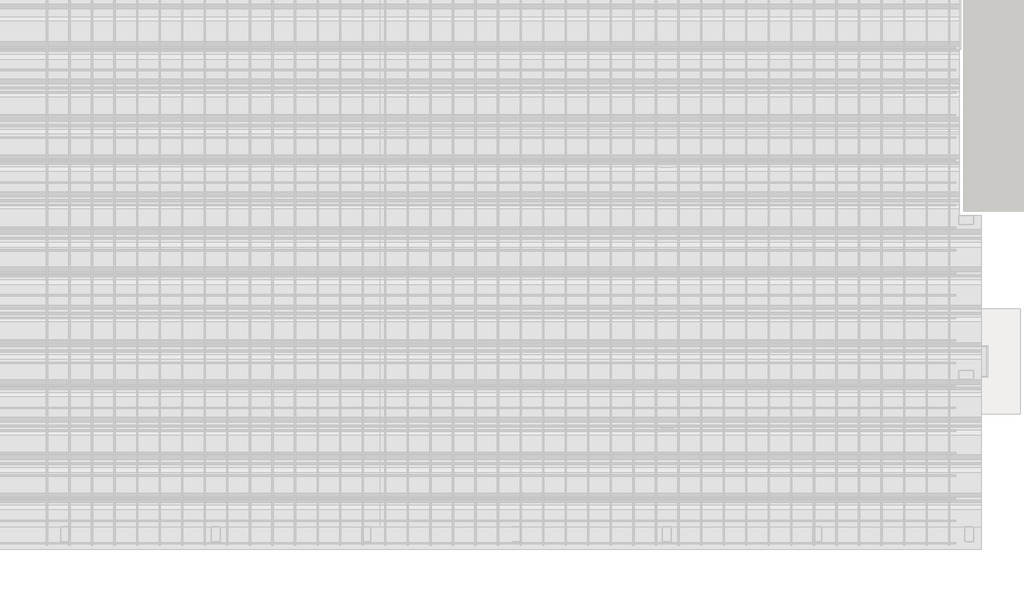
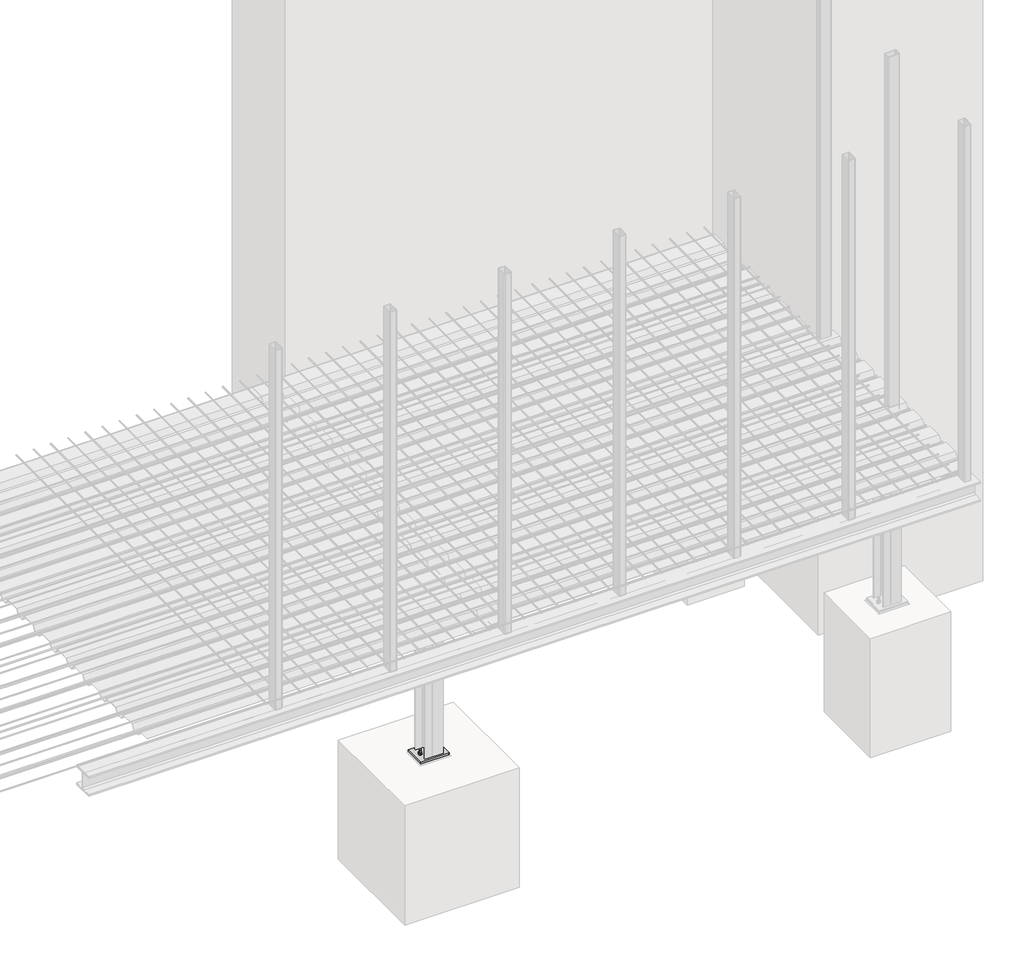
# One storey, part 15 of 36: 9 proxies.
"""IFC4 building model written with IfcOpenShell, lengths in millimetres."""

from ifc_helpers import new_model, si_unit, point, frame, frame_2d, origin, place, context, project, spatial, polyline, circle_curve, trimmed, segment, composite_curve, outline, extrude, element, save

model = new_model("IFC4")

# Units and contexts
model_context = context("Model", 3, world=origin())
ifc_project = project(units=[si_unit("LENGTHUNIT", "METRE", prefix="MILLI")], contexts=[model_context])

# Site, building, storey
site = spatial("IfcSite", under=ifc_project)
building = spatial("IfcBuilding", under=site)
storey = spatial("IfcBuildingStorey", under=building, Name="Základy", Elevation=-1200.0)

# Proxies
placement = place(None, origin())
element("IfcBuildingElementProxy", 1, Name="PLECH", ObjectType="PLECH", at=placement, inside=storey, context=model_context, shape_type="SweptSolid", body=[
    extrude(outline(composite_curve([segment(polyline([(-174.0, 11960.0), (-326.0, 11960.0), (-326.0, 12020.5)]), True, "CONTINUOUS"), segment(trimmed(circle_curve(frame_2d((-326.0, 12045.5)), 25.0), [point((-326.0, 12020.5))], [point((-301.0, 12045.5))], True, "CARTESIAN"), True, "CONTINUOUS"), segment(polyline([(-301.0, 12045.5), (-199.0, 12045.5)]), True, "CONTINUOUS"), segment(trimmed(circle_curve(frame_2d((-174.0, 12045.5)), 25.0), [point((-199.0, 12045.5))], [point((-174.0, 12020.5))], True, "CARTESIAN"), True, "CONTINUOUS"), segment(polyline([(-174.0, 12020.5), (-174.0, 11960.0)]), True, "CONTINUOUS")], self_intersect=False)), frame((0.0, 1256.0, 0.0), z_axis=(0.0, 1.0, 0.0), x_axis=(0.0, 0.0, 1.0)), (0.0, 0.0, 1.0), 8.0),
])
element("IfcBuildingElementProxy", 2, Name="PLECH", ObjectType="PLECH", at=placement, inside=storey, context=model_context, shape_type="SweptSolid", body=[
    extrude(outline(polyline([(12175.0, 1356.0), (12175.0, 1164.0), (11925.0, 1164.0), (11925.0, 1356.0), (12175.0, 1356.0)])), frame((0.0, 0.0, -1990.0), z_axis=(0.0, 0.0, 1.0), x_axis=(1.0, 0.0, 0.0)), (0.0, 0.0, 1.0), 15.0),
])
element("IfcBuildingElementProxy", 3, Name="PLECH", ObjectType="PLECH", at=placement, inside=storey, context=model_context, shape_type="SweptSolid", body=[
    extrude(outline(polyline([(12140.0, 1346.0), (12140.0, 1174.0), (11960.0, 1174.0), (11960.0, 1346.0), (12140.0, 1346.0)])), frame((0.0, 0.0, -350.0), z_axis=(0.0, 0.0, 1.0), x_axis=(1.0, 0.0, 0.0)), (0.0, 0.0, 1.0), 10.0),
])
element("IfcBuildingElementProxy", 4, Name="PLECH", ObjectType="PLECH", at=placement, inside=storey, context=model_context, shape_type="SweptSolid", body=[
    extrude(outline(composite_curve([segment(polyline([(190.0, -174.0), (190.0, -326.0), (124.25, -326.0)]), True, "CONTINUOUS"), segment(trimmed(circle_curve(frame_2d((104.25, -326.0)), 20.0), [point((124.25, -326.0))], [point((104.25, -306.0))], True, "CARTESIAN"), True, "CONTINUOUS"), segment(polyline([(104.25, -306.0), (104.25, -194.0)]), True, "CONTINUOUS"), segment(trimmed(circle_curve(frame_2d((104.25, -174.0)), 20.0), [point((104.25, -194.0))], [point((124.25, -174.0))], True, "CARTESIAN"), True, "CONTINUOUS"), segment(polyline([(124.25, -174.0), (190.0, -174.0)]), True, "CONTINUOUS")], self_intersect=False)), frame((14046.0, 0.0, 0.0), z_axis=(1.0, 0.0, 0.0), x_axis=(0.0, 1.0, 0.0)), (0.0, 0.0, 1.0), 8.0),
])
element("IfcBuildingElementProxy", 5, Name="PLECH", ObjectType="PLECH", at=placement, inside=storey, context=model_context, shape_type="SweptSolid", body=[
    extrude(outline(polyline([(13985.0, 200.0), (14115.0, 200.0), (14115.0, 190.0), (13985.0, 190.0), (13985.0, 200.0)])), frame((0.0, 0.0, -332.0), z_axis=(0.0, 0.0, 1.0), x_axis=(1.0, 0.0, 0.0)), (0.0, 0.0, 1.0), 164.0),
])
element("IfcBuildingElementProxy", 6, Name="PLECH", ObjectType="PLECH", at=placement, inside=storey, context=model_context, shape_type="SweptSolid", body=[
    extrude(outline(polyline([(12150.0, 1170.0), (12150.0, 1350.0), (12160.0, 1350.0), (12160.0, 1170.0), (12150.0, 1170.0)])), frame((0.0, 0.0, -326.0), z_axis=(0.0, 0.0, 1.0), x_axis=(1.0, 0.0, 0.0)), (0.0, 0.0, 1.0), 152.0),
])
element("IfcBuildingElementProxy", 7, Name="Bolt assembly", ObjectType="Bolt assembly", at=placement, inside=storey, context=model_context, shape_type="SweptSolid", body=[
    extrude(outline(composite_curve([segment(trimmed(circle_curve(frame_2d((1305.0, -210.0)), 8.5), [point((1305.0, -218.5))], [point((1305.0, -201.5))], False, "CARTESIAN"), True, "CONTINUOUS"), segment(trimmed(circle_curve(frame_2d((1305.0, -210.0)), 8.5), [point((1305.0, -201.5))], [point((1305.0, -218.5))], False, "CARTESIAN"), True, "CONTINUOUS")], self_intersect=False)), frame((12140.1, 0.0, 0.0), z_axis=(1.0, 0.0, 0.0), x_axis=(0.0, 1.0, 0.0)), (0.0, 0.0, 1.0), 10.0),
    extrude(outline(polyline([(1305.0, -223.8564065), (1293.0, -216.9282032), (1293.0, -203.0717968), (1305.0, -196.1435935), (1317.0, -203.0717968), (1317.0, -216.9282032), (1305.0, -223.8564065)])), frame((12127.0, 0.0, 0.0), z_axis=(1.0, 0.0, 0.0), x_axis=(0.0, 1.0, 0.0)), (0.0, 0.0, 1.0), 10.0),
    extrude(outline(composite_curve([segment(trimmed(circle_curve(frame_2d((1305.0, -210.0)), 8.0), [point((1305.0, -218.0))], [point((1305.0, -202.0))], False, "CARTESIAN"), True, "CONTINUOUS"), segment(trimmed(circle_curve(frame_2d((1305.0, -210.0)), 8.0), [point((1305.0, -202.0))], [point((1305.0, -218.0))], False, "CARTESIAN"), True, "CONTINUOUS")], self_intersect=False)), frame((12137.0, 0.0, 0.0), z_axis=(1.0, 0.0, 0.0), x_axis=(0.0, 1.0, 0.0)), (0.0, 0.0, 1.0), 45.0),
    extrude(outline(composite_curve([segment(trimmed(circle_curve(frame_2d((1305.0, -210.0)), 15.0), [point((1305.0, -225.0))], [point((1305.0, -195.0))], False, "CARTESIAN"), True, "CONTINUOUS"), segment(trimmed(circle_curve(frame_2d((1305.0, -210.0)), 15.0), [point((1305.0, -195.0))], [point((1305.0, -225.0))], False, "CARTESIAN"), True, "CONTINUOUS")], self_intersect=False)), frame((12137.0, 0.0, 0.0), z_axis=(1.0, 0.0, 0.0), x_axis=(0.0, 1.0, 0.0)), (0.0, 0.0, 1.0), 3.0),
    extrude(outline(composite_curve([segment(trimmed(circle_curve(frame_2d((1305.0, -210.0)), 15.0), [point((1305.0, -225.0))], [point((1305.0, -195.0))], False, "CARTESIAN"), True, "CONTINUOUS"), segment(trimmed(circle_curve(frame_2d((1305.0, -210.0)), 15.0), [point((1305.0, -195.0))], [point((1305.0, -225.0))], False, "CARTESIAN"), True, "CONTINUOUS")], self_intersect=False)), frame((12160.0, 0.0, 0.0), z_axis=(1.0, 0.0, 0.0), x_axis=(0.0, 1.0, 0.0)), (0.0, 0.0, 1.0), 3.0),
    extrude(outline(polyline([(1305.0, -225.4441197), (1291.625, -217.7220599), (1291.625, -202.2779401), (1305.0, -194.5558803), (1318.375, -202.2779401), (1318.375, -217.7220599), (1305.0, -225.4441197)])), frame((12163.0, 0.0, 0.0), z_axis=(1.0, 0.0, 0.0), x_axis=(0.0, 1.0, 0.0)), (0.0, 0.0, 1.0), 13.0),
    extrude(outline(composite_curve([segment(trimmed(circle_curve(frame_2d((1305.0, -210.0)), 8.5), [point((1305.0, -218.5))], [point((1305.0, -201.5))], False, "CARTESIAN"), True, "CONTINUOUS"), segment(trimmed(circle_curve(frame_2d((1305.0, -210.0)), 8.5), [point((1305.0, -201.5))], [point((1305.0, -218.5))], False, "CARTESIAN"), True, "CONTINUOUS")], self_intersect=False)), frame((12149.9, 0.0, 0.0), z_axis=(1.0, 0.0, 0.0), x_axis=(0.0, 1.0, 0.0)), (0.0, 0.0, 1.0), 10.1),
    extrude(outline(composite_curve([segment(trimmed(circle_curve(frame_2d((1305.0, -290.0)), 8.5), [point((1305.0, -298.5))], [point((1305.0, -281.5))], False, "CARTESIAN"), True, "CONTINUOUS"), segment(trimmed(circle_curve(frame_2d((1305.0, -290.0)), 8.5), [point((1305.0, -281.5))], [point((1305.0, -298.5))], False, "CARTESIAN"), True, "CONTINUOUS")], self_intersect=False)), frame((12140.1, 0.0, 0.0), z_axis=(1.0, 0.0, 0.0), x_axis=(0.0, 1.0, 0.0)), (0.0, 0.0, 1.0), 10.0),
    extrude(outline(polyline([(1305.0, -303.8564065), (1293.0, -296.9282032), (1293.0, -283.0717968), (1305.0, -276.1435935), (1317.0, -283.0717968), (1317.0, -296.9282032), (1305.0, -303.8564065)])), frame((12127.0, 0.0, 0.0), z_axis=(1.0, 0.0, 0.0), x_axis=(0.0, 1.0, 0.0)), (0.0, 0.0, 1.0), 10.0),
    extrude(outline(composite_curve([segment(trimmed(circle_curve(frame_2d((1305.0, -290.0)), 8.0), [point((1305.0, -298.0))], [point((1305.0, -282.0))], False, "CARTESIAN"), True, "CONTINUOUS"), segment(trimmed(circle_curve(frame_2d((1305.0, -290.0)), 8.0), [point((1305.0, -282.0))], [point((1305.0, -298.0))], False, "CARTESIAN"), True, "CONTINUOUS")], self_intersect=False)), frame((12137.0, 0.0, 0.0), z_axis=(1.0, 0.0, 0.0), x_axis=(0.0, 1.0, 0.0)), (0.0, 0.0, 1.0), 45.0),
    extrude(outline(composite_curve([segment(trimmed(circle_curve(frame_2d((1305.0, -290.0)), 15.0), [point((1305.0, -305.0))], [point((1305.0, -275.0))], False, "CARTESIAN"), True, "CONTINUOUS"), segment(trimmed(circle_curve(frame_2d((1305.0, -290.0)), 15.0), [point((1305.0, -275.0))], [point((1305.0, -305.0))], False, "CARTESIAN"), True, "CONTINUOUS")], self_intersect=False)), frame((12137.0, 0.0, 0.0), z_axis=(1.0, 0.0, 0.0), x_axis=(0.0, 1.0, 0.0)), (0.0, 0.0, 1.0), 3.0),
    extrude(outline(composite_curve([segment(trimmed(circle_curve(frame_2d((1305.0, -290.0)), 15.0), [point((1305.0, -305.0))], [point((1305.0, -275.0))], False, "CARTESIAN"), True, "CONTINUOUS"), segment(trimmed(circle_curve(frame_2d((1305.0, -290.0)), 15.0), [point((1305.0, -275.0))], [point((1305.0, -305.0))], False, "CARTESIAN"), True, "CONTINUOUS")], self_intersect=False)), frame((12160.0, 0.0, 0.0), z_axis=(1.0, 0.0, 0.0), x_axis=(0.0, 1.0, 0.0)), (0.0, 0.0, 1.0), 3.0),
    extrude(outline(polyline([(1305.0, -305.4441197), (1291.625, -297.7220599), (1291.625, -282.2779401), (1305.0, -274.5558803), (1318.375, -282.2779401), (1318.375, -297.7220599), (1305.0, -305.4441197)])), frame((12163.0, 0.0, 0.0), z_axis=(1.0, 0.0, 0.0), x_axis=(0.0, 1.0, 0.0)), (0.0, 0.0, 1.0), 13.0),
    extrude(outline(composite_curve([segment(trimmed(circle_curve(frame_2d((1305.0, -290.0)), 8.5), [point((1305.0, -298.5))], [point((1305.0, -281.5))], False, "CARTESIAN"), True, "CONTINUOUS"), segment(trimmed(circle_curve(frame_2d((1305.0, -290.0)), 8.5), [point((1305.0, -281.5))], [point((1305.0, -298.5))], False, "CARTESIAN"), True, "CONTINUOUS")], self_intersect=False)), frame((12149.9, 0.0, 0.0), z_axis=(1.0, 0.0, 0.0), x_axis=(0.0, 1.0, 0.0)), (0.0, 0.0, 1.0), 10.1),
    extrude(outline(composite_curve([segment(trimmed(circle_curve(frame_2d((1215.0, -210.0)), 8.5), [point((1215.0, -218.5))], [point((1215.0, -201.5))], False, "CARTESIAN"), True, "CONTINUOUS"), segment(trimmed(circle_curve(frame_2d((1215.0, -210.0)), 8.5), [point((1215.0, -201.5))], [point((1215.0, -218.5))], False, "CARTESIAN"), True, "CONTINUOUS")], self_intersect=False)), frame((12140.1, 0.0, 0.0), z_axis=(1.0, 0.0, 0.0), x_axis=(0.0, 1.0, 0.0)), (0.0, 0.0, 1.0), 10.0),
    extrude(outline(polyline([(1215.0, -223.8564065), (1203.0, -216.9282032), (1203.0, -203.0717968), (1215.0, -196.1435935), (1227.0, -203.0717968), (1227.0, -216.9282032), (1215.0, -223.8564065)])), frame((12127.0, 0.0, 0.0), z_axis=(1.0, 0.0, 0.0), x_axis=(0.0, 1.0, 0.0)), (0.0, 0.0, 1.0), 10.0),
    extrude(outline(composite_curve([segment(trimmed(circle_curve(frame_2d((1215.0, -210.0)), 8.0), [point((1215.0, -218.0))], [point((1215.0, -202.0))], False, "CARTESIAN"), True, "CONTINUOUS"), segment(trimmed(circle_curve(frame_2d((1215.0, -210.0)), 8.0), [point((1215.0, -202.0))], [point((1215.0, -218.0))], False, "CARTESIAN"), True, "CONTINUOUS")], self_intersect=False)), frame((12137.0, 0.0, 0.0), z_axis=(1.0, 0.0, 0.0), x_axis=(0.0, 1.0, 0.0)), (0.0, 0.0, 1.0), 45.0),
    extrude(outline(composite_curve([segment(trimmed(circle_curve(frame_2d((1215.0, -210.0)), 15.0), [point((1215.0, -225.0))], [point((1215.0, -195.0))], False, "CARTESIAN"), True, "CONTINUOUS"), segment(trimmed(circle_curve(frame_2d((1215.0, -210.0)), 15.0), [point((1215.0, -195.0))], [point((1215.0, -225.0))], False, "CARTESIAN"), True, "CONTINUOUS")], self_intersect=False)), frame((12137.0, 0.0, 0.0), z_axis=(1.0, 0.0, 0.0), x_axis=(0.0, 1.0, 0.0)), (0.0, 0.0, 1.0), 3.0),
    extrude(outline(composite_curve([segment(trimmed(circle_curve(frame_2d((1215.0, -210.0)), 15.0), [point((1215.0, -225.0))], [point((1215.0, -195.0))], False, "CARTESIAN"), True, "CONTINUOUS"), segment(trimmed(circle_curve(frame_2d((1215.0, -210.0)), 15.0), [point((1215.0, -195.0))], [point((1215.0, -225.0))], False, "CARTESIAN"), True, "CONTINUOUS")], self_intersect=False)), frame((12160.0, 0.0, 0.0), z_axis=(1.0, 0.0, 0.0), x_axis=(0.0, 1.0, 0.0)), (0.0, 0.0, 1.0), 3.0),
    extrude(outline(polyline([(1215.0, -225.4441197), (1201.625, -217.7220599), (1201.625, -202.2779401), (1215.0, -194.5558803), (1228.375, -202.2779401), (1228.375, -217.7220599), (1215.0, -225.4441197)])), frame((12163.0, 0.0, 0.0), z_axis=(1.0, 0.0, 0.0), x_axis=(0.0, 1.0, 0.0)), (0.0, 0.0, 1.0), 13.0),
    extrude(outline(composite_curve([segment(trimmed(circle_curve(frame_2d((1215.0, -210.0)), 8.5), [point((1215.0, -218.5))], [point((1215.0, -201.5))], False, "CARTESIAN"), True, "CONTINUOUS"), segment(trimmed(circle_curve(frame_2d((1215.0, -210.0)), 8.5), [point((1215.0, -201.5))], [point((1215.0, -218.5))], False, "CARTESIAN"), True, "CONTINUOUS")], self_intersect=False)), frame((12149.9, 0.0, 0.0), z_axis=(1.0, 0.0, 0.0), x_axis=(0.0, 1.0, 0.0)), (0.0, 0.0, 1.0), 10.1),
    extrude(outline(composite_curve([segment(trimmed(circle_curve(frame_2d((1215.0, -290.0)), 8.5), [point((1215.0, -298.5))], [point((1215.0, -281.5))], False, "CARTESIAN"), True, "CONTINUOUS"), segment(trimmed(circle_curve(frame_2d((1215.0, -290.0)), 8.5), [point((1215.0, -281.5))], [point((1215.0, -298.5))], False, "CARTESIAN"), True, "CONTINUOUS")], self_intersect=False)), frame((12140.1, 0.0, 0.0), z_axis=(1.0, 0.0, 0.0), x_axis=(0.0, 1.0, 0.0)), (0.0, 0.0, 1.0), 10.0),
    extrude(outline(polyline([(1215.0, -303.8564065), (1203.0, -296.9282032), (1203.0, -283.0717968), (1215.0, -276.1435935), (1227.0, -283.0717968), (1227.0, -296.9282032), (1215.0, -303.8564065)])), frame((12127.0, 0.0, 0.0), z_axis=(1.0, 0.0, 0.0), x_axis=(0.0, 1.0, 0.0)), (0.0, 0.0, 1.0), 10.0),
    extrude(outline(composite_curve([segment(trimmed(circle_curve(frame_2d((1215.0, -290.0)), 8.0), [point((1215.0, -298.0))], [point((1215.0, -282.0))], False, "CARTESIAN"), True, "CONTINUOUS"), segment(trimmed(circle_curve(frame_2d((1215.0, -290.0)), 8.0), [point((1215.0, -282.0))], [point((1215.0, -298.0))], False, "CARTESIAN"), True, "CONTINUOUS")], self_intersect=False)), frame((12137.0, 0.0, 0.0), z_axis=(1.0, 0.0, 0.0), x_axis=(0.0, 1.0, 0.0)), (0.0, 0.0, 1.0), 45.0),
    extrude(outline(composite_curve([segment(trimmed(circle_curve(frame_2d((1215.0, -290.0)), 15.0), [point((1215.0, -305.0))], [point((1215.0, -275.0))], False, "CARTESIAN"), True, "CONTINUOUS"), segment(trimmed(circle_curve(frame_2d((1215.0, -290.0)), 15.0), [point((1215.0, -275.0))], [point((1215.0, -305.0))], False, "CARTESIAN"), True, "CONTINUOUS")], self_intersect=False)), frame((12137.0, 0.0, 0.0), z_axis=(1.0, 0.0, 0.0), x_axis=(0.0, 1.0, 0.0)), (0.0, 0.0, 1.0), 3.0),
    extrude(outline(composite_curve([segment(trimmed(circle_curve(frame_2d((1215.0, -290.0)), 15.0), [point((1215.0, -305.0))], [point((1215.0, -275.0))], False, "CARTESIAN"), True, "CONTINUOUS"), segment(trimmed(circle_curve(frame_2d((1215.0, -290.0)), 15.0), [point((1215.0, -275.0))], [point((1215.0, -305.0))], False, "CARTESIAN"), True, "CONTINUOUS")], self_intersect=False)), frame((12160.0, 0.0, 0.0), z_axis=(1.0, 0.0, 0.0), x_axis=(0.0, 1.0, 0.0)), (0.0, 0.0, 1.0), 3.0),
    extrude(outline(polyline([(1215.0, -305.4441197), (1201.625, -297.7220599), (1201.625, -282.2779401), (1215.0, -274.5558803), (1228.375, -282.2779401), (1228.375, -297.7220599), (1215.0, -305.4441197)])), frame((12163.0, 0.0, 0.0), z_axis=(1.0, 0.0, 0.0), x_axis=(0.0, 1.0, 0.0)), (0.0, 0.0, 1.0), 13.0),
    extrude(outline(composite_curve([segment(trimmed(circle_curve(frame_2d((1215.0, -290.0)), 8.5), [point((1215.0, -298.5))], [point((1215.0, -281.5))], False, "CARTESIAN"), True, "CONTINUOUS"), segment(trimmed(circle_curve(frame_2d((1215.0, -290.0)), 8.5), [point((1215.0, -281.5))], [point((1215.0, -298.5))], False, "CARTESIAN"), True, "CONTINUOUS")], self_intersect=False)), frame((12149.9, 0.0, 0.0), z_axis=(1.0, 0.0, 0.0), x_axis=(0.0, 1.0, 0.0)), (0.0, 0.0, 1.0), 10.1),
])
element("IfcBuildingElementProxy", 8, Name="Bolt assembly", ObjectType="Bolt assembly", at=placement, inside=storey, context=model_context, shape_type="SweptSolid", body=[
    extrude(outline(polyline([(11982.7364934, 1260.0), (11978.8682467, 1253.3000002), (11971.1317533, 1253.3000002), (11967.2635066, 1260.0), (11971.1317533, 1266.6999998), (11978.8682467, 1266.6999998), (11982.7364934, 1260.0)])), frame((0.0, 0.0, -2122.0), z_axis=(0.0, 0.0, 1.0), x_axis=(1.0, 0.0, 0.0)), (0.0, 0.0, 1.0), 132.0),
    extrude(outline(composite_curve([segment(trimmed(circle_curve(frame_2d((11975.0, 1260.0)), 8.0), [point((11983.0, 1260.0))], [point((11967.0, 1260.0))], False, "CARTESIAN"), True, "CONTINUOUS"), segment(trimmed(circle_curve(frame_2d((11975.0, 1260.0)), 8.0), [point((11967.0, 1260.0))], [point((11983.0, 1260.0))], False, "CARTESIAN"), True, "CONTINUOUS")], self_intersect=False)), frame((0.0, 0.0, -1990.0), z_axis=(0.0, 0.0, 1.0), x_axis=(1.0, 0.0, 0.0)), (0.0, 0.0, 1.0), 58.0),
    extrude(outline(composite_curve([segment(trimmed(circle_curve(frame_2d((11975.0, 1260.0)), 15.0), [point((11990.0, 1260.0))], [point((11960.0, 1260.0))], False, "CARTESIAN"), True, "CONTINUOUS"), segment(trimmed(circle_curve(frame_2d((11975.0, 1260.0)), 15.0), [point((11960.0, 1260.0))], [point((11990.0, 1260.0))], False, "CARTESIAN"), True, "CONTINUOUS")], self_intersect=False)), frame((0.0, 0.0, -1975.0), z_axis=(0.0, 0.0, 1.0), x_axis=(1.0, 0.0, 0.0)), (0.0, 0.0, 1.0), 3.0),
    extrude(outline(polyline([(11990.4441197, 1260.0), (11982.7220599, 1246.625), (11967.2779401, 1246.625), (11959.5558803, 1260.0), (11967.2779401, 1273.375), (11982.7220599, 1273.375), (11990.4441197, 1260.0)])), frame((0.0, 0.0, -1972.0), z_axis=(0.0, 0.0, 1.0), x_axis=(1.0, 0.0, 0.0)), (0.0, 0.0, 1.0), 13.0),
    extrude(outline(composite_curve([segment(trimmed(circle_curve(frame_2d((11975.0, 1260.0)), 9.0), [point((11984.0, 1260.0))], [point((11966.0, 1260.0))], False, "CARTESIAN"), True, "CONTINUOUS"), segment(trimmed(circle_curve(frame_2d((11975.0, 1260.0)), 9.0), [point((11966.0, 1260.0))], [point((11984.0, 1260.0))], False, "CARTESIAN"), True, "CONTINUOUS")], self_intersect=False)), frame((0.0, 0.0, -1990.0), z_axis=(0.0, 0.0, 1.0), x_axis=(1.0, 0.0, 0.0)), (0.0, 0.0, 1.0), 15.1),
    extrude(outline(polyline([(12132.7364934, 1260.0), (12128.8682467, 1253.3000002), (12121.1317533, 1253.3000002), (12117.2635066, 1260.0), (12121.1317533, 1266.6999998), (12128.8682467, 1266.6999998), (12132.7364934, 1260.0)])), frame((0.0, 0.0, -2122.0), z_axis=(0.0, 0.0, 1.0), x_axis=(1.0, 0.0, 0.0)), (0.0, 0.0, 1.0), 132.0),
    extrude(outline(composite_curve([segment(trimmed(circle_curve(frame_2d((12125.0, 1260.0)), 8.0), [point((12133.0, 1260.0))], [point((12117.0, 1260.0))], False, "CARTESIAN"), True, "CONTINUOUS"), segment(trimmed(circle_curve(frame_2d((12125.0, 1260.0)), 8.0), [point((12117.0, 1260.0))], [point((12133.0, 1260.0))], False, "CARTESIAN"), True, "CONTINUOUS")], self_intersect=False)), frame((0.0, 0.0, -1990.0), z_axis=(0.0, 0.0, 1.0), x_axis=(1.0, 0.0, 0.0)), (0.0, 0.0, 1.0), 58.0),
    extrude(outline(composite_curve([segment(trimmed(circle_curve(frame_2d((12125.0, 1260.0)), 15.0), [point((12140.0, 1260.0))], [point((12110.0, 1260.0))], False, "CARTESIAN"), True, "CONTINUOUS"), segment(trimmed(circle_curve(frame_2d((12125.0, 1260.0)), 15.0), [point((12110.0, 1260.0))], [point((12140.0, 1260.0))], False, "CARTESIAN"), True, "CONTINUOUS")], self_intersect=False)), frame((0.0, 0.0, -1975.0), z_axis=(0.0, 0.0, 1.0), x_axis=(1.0, 0.0, 0.0)), (0.0, 0.0, 1.0), 3.0),
    extrude(outline(polyline([(12140.4441197, 1260.0), (12132.7220599, 1246.625), (12117.2779401, 1246.625), (12109.5558803, 1260.0), (12117.2779401, 1273.375), (12132.7220599, 1273.375), (12140.4441197, 1260.0)])), frame((0.0, 0.0, -1972.0), z_axis=(0.0, 0.0, 1.0), x_axis=(1.0, 0.0, 0.0)), (0.0, 0.0, 1.0), 13.0),
    extrude(outline(composite_curve([segment(trimmed(circle_curve(frame_2d((12125.0, 1260.0)), 9.0), [point((12134.0, 1260.0))], [point((12116.0, 1260.0))], False, "CARTESIAN"), True, "CONTINUOUS"), segment(trimmed(circle_curve(frame_2d((12125.0, 1260.0)), 9.0), [point((12116.0, 1260.0))], [point((12134.0, 1260.0))], False, "CARTESIAN"), True, "CONTINUOUS")], self_intersect=False)), frame((0.0, 0.0, -1990.0), z_axis=(0.0, 0.0, 1.0), x_axis=(1.0, 0.0, 0.0)), (0.0, 0.0, 1.0), 15.1),
])
element("IfcBuildingElementProxy", 9, Name="Bolt assembly", ObjectType="Bolt assembly", at=placement, inside=storey, context=model_context, shape_type="SweptSolid", body=[
    extrude(outline(composite_curve([segment(trimmed(circle_curve(frame_2d((12000.0, 1220.0)), 6.5), [point((12006.5, 1220.0))], [point((11993.5, 1220.0))], False, "CARTESIAN"), True, "CONTINUOUS"), segment(trimmed(circle_curve(frame_2d((12000.0, 1220.0)), 6.5), [point((11993.5, 1220.0))], [point((12006.5, 1220.0))], False, "CARTESIAN"), True, "CONTINUOUS")], self_intersect=False)), frame((0.0, 0.0, -350.0), z_axis=(0.0, 0.0, 1.0), x_axis=(1.0, 0.0, 0.0)), (0.0, 0.0, 1.0), 10.1),
    extrude(outline(polyline([(12010.3923048, 1220.0), (12005.1961524, 1211.0), (11994.8038476, 1211.0), (11989.6076952, 1220.0), (11994.8038476, 1229.0), (12005.1961524, 1229.0), (12010.3923048, 1220.0)])), frame((0.0, 0.0, -323.5), z_axis=(0.0, 0.0, 1.0), x_axis=(1.0, 0.0, 0.0)), (0.0, 0.0, 1.0), 7.5),
    extrude(outline(composite_curve([segment(trimmed(circle_curve(frame_2d((12000.0, 1220.0)), 6.0), [point((12006.0, 1220.0))], [point((11994.0, 1220.0))], False, "CARTESIAN"), True, "CONTINUOUS"), segment(trimmed(circle_curve(frame_2d((12000.0, 1220.0)), 6.0), [point((11994.0, 1220.0))], [point((12006.0, 1220.0))], False, "CARTESIAN"), True, "CONTINUOUS")], self_intersect=False)), frame((0.0, 0.0, -368.5), z_axis=(0.0, 0.0, 1.0), x_axis=(1.0, 0.0, 0.0)), (0.0, 0.0, 1.0), 45.0),
    extrude(outline(composite_curve([segment(trimmed(circle_curve(frame_2d((12000.0, 1220.0)), 12.0), [point((12012.0, 1220.0))], [point((11988.0, 1220.0))], False, "CARTESIAN"), True, "CONTINUOUS"), segment(trimmed(circle_curve(frame_2d((12000.0, 1220.0)), 12.0), [point((11988.0, 1220.0))], [point((12012.0, 1220.0))], False, "CARTESIAN"), True, "CONTINUOUS")], self_intersect=False)), frame((0.0, 0.0, -326.0), z_axis=(0.0, 0.0, 1.0), x_axis=(1.0, 0.0, 0.0)), (0.0, 0.0, 1.0), 2.5),
    extrude(outline(composite_curve([segment(trimmed(circle_curve(frame_2d((12000.0, 1220.0)), 12.0), [point((12012.0, 1220.0))], [point((11988.0, 1220.0))], False, "CARTESIAN"), True, "CONTINUOUS"), segment(trimmed(circle_curve(frame_2d((12000.0, 1220.0)), 12.0), [point((11988.0, 1220.0))], [point((12012.0, 1220.0))], False, "CARTESIAN"), True, "CONTINUOUS")], self_intersect=False)), frame((0.0, 0.0, -352.5), z_axis=(0.0, 0.0, 1.0), x_axis=(1.0, 0.0, 0.0)), (0.0, 0.0, 1.0), 2.5),
    extrude(outline(polyline([(12010.9696551, 1220.0), (12005.4848276, 1210.5), (11994.5151724, 1210.5), (11989.0303449, 1220.0), (11994.5151724, 1229.5), (12005.4848276, 1229.5), (12010.9696551, 1220.0)])), frame((0.0, 0.0, -362.5), z_axis=(0.0, 0.0, 1.0), x_axis=(1.0, 0.0, 0.0)), (0.0, 0.0, 1.0), 10.0),
    extrude(outline(composite_curve([segment(trimmed(circle_curve(frame_2d((12000.0, 1220.0)), 6.5), [point((12006.5, 1220.0))], [point((11993.5, 1220.0))], False, "CARTESIAN"), True, "CONTINUOUS"), segment(trimmed(circle_curve(frame_2d((12000.0, 1220.0)), 6.5), [point((11993.5, 1220.0))], [point((12006.5, 1220.0))], False, "CARTESIAN"), True, "CONTINUOUS")], self_intersect=False)), frame((0.0, 0.0, -340.1), z_axis=(0.0, 0.0, 1.0), x_axis=(1.0, 0.0, 0.0)), (0.0, 0.0, 1.0), 14.0),
    extrude(outline(composite_curve([segment(trimmed(circle_curve(frame_2d((12100.0, 1220.0)), 6.5), [point((12106.5, 1220.0))], [point((12093.5, 1220.0))], False, "CARTESIAN"), True, "CONTINUOUS"), segment(trimmed(circle_curve(frame_2d((12100.0, 1220.0)), 6.5), [point((12093.5, 1220.0))], [point((12106.5, 1220.0))], False, "CARTESIAN"), True, "CONTINUOUS")], self_intersect=False)), frame((0.0, 0.0, -350.0), z_axis=(0.0, 0.0, 1.0), x_axis=(1.0, 0.0, 0.0)), (0.0, 0.0, 1.0), 10.1),
    extrude(outline(polyline([(12110.3923048, 1220.0), (12105.1961524, 1211.0), (12094.8038476, 1211.0), (12089.6076952, 1220.0), (12094.8038476, 1229.0), (12105.1961524, 1229.0), (12110.3923048, 1220.0)])), frame((0.0, 0.0, -323.5), z_axis=(0.0, 0.0, 1.0), x_axis=(1.0, 0.0, 0.0)), (0.0, 0.0, 1.0), 7.5),
    extrude(outline(composite_curve([segment(trimmed(circle_curve(frame_2d((12100.0, 1220.0)), 6.0), [point((12106.0, 1220.0))], [point((12094.0, 1220.0))], False, "CARTESIAN"), True, "CONTINUOUS"), segment(trimmed(circle_curve(frame_2d((12100.0, 1220.0)), 6.0), [point((12094.0, 1220.0))], [point((12106.0, 1220.0))], False, "CARTESIAN"), True, "CONTINUOUS")], self_intersect=False)), frame((0.0, 0.0, -368.5), z_axis=(0.0, 0.0, 1.0), x_axis=(1.0, 0.0, 0.0)), (0.0, 0.0, 1.0), 45.0),
    extrude(outline(composite_curve([segment(trimmed(circle_curve(frame_2d((12100.0, 1220.0)), 12.0), [point((12112.0, 1220.0))], [point((12088.0, 1220.0))], False, "CARTESIAN"), True, "CONTINUOUS"), segment(trimmed(circle_curve(frame_2d((12100.0, 1220.0)), 12.0), [point((12088.0, 1220.0))], [point((12112.0, 1220.0))], False, "CARTESIAN"), True, "CONTINUOUS")], self_intersect=False)), frame((0.0, 0.0, -326.0), z_axis=(0.0, 0.0, 1.0), x_axis=(1.0, 0.0, 0.0)), (0.0, 0.0, 1.0), 2.5),
    extrude(outline(composite_curve([segment(trimmed(circle_curve(frame_2d((12100.0, 1220.0)), 12.0), [point((12112.0, 1220.0))], [point((12088.0, 1220.0))], False, "CARTESIAN"), True, "CONTINUOUS"), segment(trimmed(circle_curve(frame_2d((12100.0, 1220.0)), 12.0), [point((12088.0, 1220.0))], [point((12112.0, 1220.0))], False, "CARTESIAN"), True, "CONTINUOUS")], self_intersect=False)), frame((0.0, 0.0, -352.5), z_axis=(0.0, 0.0, 1.0), x_axis=(1.0, 0.0, 0.0)), (0.0, 0.0, 1.0), 2.5),
    extrude(outline(polyline([(12110.9696551, 1220.0), (12105.4848276, 1210.5), (12094.5151724, 1210.5), (12089.0303449, 1220.0), (12094.5151724, 1229.5), (12105.4848276, 1229.5), (12110.9696551, 1220.0)])), frame((0.0, 0.0, -362.5), z_axis=(0.0, 0.0, 1.0), x_axis=(1.0, 0.0, 0.0)), (0.0, 0.0, 1.0), 10.0),
    extrude(outline(composite_curve([segment(trimmed(circle_curve(frame_2d((12100.0, 1220.0)), 6.5), [point((12106.5, 1220.0))], [point((12093.5, 1220.0))], False, "CARTESIAN"), True, "CONTINUOUS"), segment(trimmed(circle_curve(frame_2d((12100.0, 1220.0)), 6.5), [point((12093.5, 1220.0))], [point((12106.5, 1220.0))], False, "CARTESIAN"), True, "CONTINUOUS")], self_intersect=False)), frame((0.0, 0.0, -340.1), z_axis=(0.0, 0.0, 1.0), x_axis=(1.0, 0.0, 0.0)), (0.0, 0.0, 1.0), 14.0),
    extrude(outline(composite_curve([segment(trimmed(circle_curve(frame_2d((12000.0, 1300.0)), 6.5), [point((12006.5, 1300.0))], [point((11993.5, 1300.0))], False, "CARTESIAN"), True, "CONTINUOUS"), segment(trimmed(circle_curve(frame_2d((12000.0, 1300.0)), 6.5), [point((11993.5, 1300.0))], [point((12006.5, 1300.0))], False, "CARTESIAN"), True, "CONTINUOUS")], self_intersect=False)), frame((0.0, 0.0, -350.0), z_axis=(0.0, 0.0, 1.0), x_axis=(1.0, 0.0, 0.0)), (0.0, 0.0, 1.0), 10.1),
    extrude(outline(polyline([(12010.3923048, 1300.0), (12005.1961524, 1291.0), (11994.8038476, 1291.0), (11989.6076952, 1300.0), (11994.8038476, 1309.0), (12005.1961524, 1309.0), (12010.3923048, 1300.0)])), frame((0.0, 0.0, -323.5), z_axis=(0.0, 0.0, 1.0), x_axis=(1.0, 0.0, 0.0)), (0.0, 0.0, 1.0), 7.5),
    extrude(outline(composite_curve([segment(trimmed(circle_curve(frame_2d((12000.0, 1300.0)), 6.0), [point((12006.0, 1300.0))], [point((11994.0, 1300.0))], False, "CARTESIAN"), True, "CONTINUOUS"), segment(trimmed(circle_curve(frame_2d((12000.0, 1300.0)), 6.0), [point((11994.0, 1300.0))], [point((12006.0, 1300.0))], False, "CARTESIAN"), True, "CONTINUOUS")], self_intersect=False)), frame((0.0, 0.0, -368.5), z_axis=(0.0, 0.0, 1.0), x_axis=(1.0, 0.0, 0.0)), (0.0, 0.0, 1.0), 45.0),
    extrude(outline(composite_curve([segment(trimmed(circle_curve(frame_2d((12000.0, 1300.0)), 12.0), [point((12012.0, 1300.0))], [point((11988.0, 1300.0))], False, "CARTESIAN"), True, "CONTINUOUS"), segment(trimmed(circle_curve(frame_2d((12000.0, 1300.0)), 12.0), [point((11988.0, 1300.0))], [point((12012.0, 1300.0))], False, "CARTESIAN"), True, "CONTINUOUS")], self_intersect=False)), frame((0.0, 0.0, -326.0), z_axis=(0.0, 0.0, 1.0), x_axis=(1.0, 0.0, 0.0)), (0.0, 0.0, 1.0), 2.5),
    extrude(outline(composite_curve([segment(trimmed(circle_curve(frame_2d((12000.0, 1300.0)), 12.0), [point((12012.0, 1300.0))], [point((11988.0, 1300.0))], False, "CARTESIAN"), True, "CONTINUOUS"), segment(trimmed(circle_curve(frame_2d((12000.0, 1300.0)), 12.0), [point((11988.0, 1300.0))], [point((12012.0, 1300.0))], False, "CARTESIAN"), True, "CONTINUOUS")], self_intersect=False)), frame((0.0, 0.0, -352.5), z_axis=(0.0, 0.0, 1.0), x_axis=(1.0, 0.0, 0.0)), (0.0, 0.0, 1.0), 2.5),
    extrude(outline(polyline([(12010.9696551, 1300.0), (12005.4848276, 1290.5), (11994.5151724, 1290.5), (11989.0303449, 1300.0), (11994.5151724, 1309.5), (12005.4848276, 1309.5), (12010.9696551, 1300.0)])), frame((0.0, 0.0, -362.5), z_axis=(0.0, 0.0, 1.0), x_axis=(1.0, 0.0, 0.0)), (0.0, 0.0, 1.0), 10.0),
    extrude(outline(composite_curve([segment(trimmed(circle_curve(frame_2d((12000.0, 1300.0)), 6.5), [point((12006.5, 1300.0))], [point((11993.5, 1300.0))], False, "CARTESIAN"), True, "CONTINUOUS"), segment(trimmed(circle_curve(frame_2d((12000.0, 1300.0)), 6.5), [point((11993.5, 1300.0))], [point((12006.5, 1300.0))], False, "CARTESIAN"), True, "CONTINUOUS")], self_intersect=False)), frame((0.0, 0.0, -340.1), z_axis=(0.0, 0.0, 1.0), x_axis=(1.0, 0.0, 0.0)), (0.0, 0.0, 1.0), 14.0),
    extrude(outline(composite_curve([segment(trimmed(circle_curve(frame_2d((12100.0, 1300.0)), 6.5), [point((12106.5, 1300.0))], [point((12093.5, 1300.0))], False, "CARTESIAN"), True, "CONTINUOUS"), segment(trimmed(circle_curve(frame_2d((12100.0, 1300.0)), 6.5), [point((12093.5, 1300.0))], [point((12106.5, 1300.0))], False, "CARTESIAN"), True, "CONTINUOUS")], self_intersect=False)), frame((0.0, 0.0, -350.0), z_axis=(0.0, 0.0, 1.0), x_axis=(1.0, 0.0, 0.0)), (0.0, 0.0, 1.0), 10.1),
    extrude(outline(polyline([(12110.3923048, 1300.0), (12105.1961524, 1291.0), (12094.8038476, 1291.0), (12089.6076952, 1300.0), (12094.8038476, 1309.0), (12105.1961524, 1309.0), (12110.3923048, 1300.0)])), frame((0.0, 0.0, -323.5), z_axis=(0.0, 0.0, 1.0), x_axis=(1.0, 0.0, 0.0)), (0.0, 0.0, 1.0), 7.5),
    extrude(outline(composite_curve([segment(trimmed(circle_curve(frame_2d((12100.0, 1300.0)), 6.0), [point((12106.0, 1300.0))], [point((12094.0, 1300.0))], False, "CARTESIAN"), True, "CONTINUOUS"), segment(trimmed(circle_curve(frame_2d((12100.0, 1300.0)), 6.0), [point((12094.0, 1300.0))], [point((12106.0, 1300.0))], False, "CARTESIAN"), True, "CONTINUOUS")], self_intersect=False)), frame((0.0, 0.0, -368.5), z_axis=(0.0, 0.0, 1.0), x_axis=(1.0, 0.0, 0.0)), (0.0, 0.0, 1.0), 45.0),
    extrude(outline(composite_curve([segment(trimmed(circle_curve(frame_2d((12100.0, 1300.0)), 12.0), [point((12112.0, 1300.0))], [point((12088.0, 1300.0))], False, "CARTESIAN"), True, "CONTINUOUS"), segment(trimmed(circle_curve(frame_2d((12100.0, 1300.0)), 12.0), [point((12088.0, 1300.0))], [point((12112.0, 1300.0))], False, "CARTESIAN"), True, "CONTINUOUS")], self_intersect=False)), frame((0.0, 0.0, -326.0), z_axis=(0.0, 0.0, 1.0), x_axis=(1.0, 0.0, 0.0)), (0.0, 0.0, 1.0), 2.5),
    extrude(outline(composite_curve([segment(trimmed(circle_curve(frame_2d((12100.0, 1300.0)), 12.0), [point((12112.0, 1300.0))], [point((12088.0, 1300.0))], False, "CARTESIAN"), True, "CONTINUOUS"), segment(trimmed(circle_curve(frame_2d((12100.0, 1300.0)), 12.0), [point((12088.0, 1300.0))], [point((12112.0, 1300.0))], False, "CARTESIAN"), True, "CONTINUOUS")], self_intersect=False)), frame((0.0, 0.0, -352.5), z_axis=(0.0, 0.0, 1.0), x_axis=(1.0, 0.0, 0.0)), (0.0, 0.0, 1.0), 2.5),
    extrude(outline(polyline([(12110.9696551, 1300.0), (12105.4848276, 1290.5), (12094.5151724, 1290.5), (12089.0303449, 1300.0), (12094.5151724, 1309.5), (12105.4848276, 1309.5), (12110.9696551, 1300.0)])), frame((0.0, 0.0, -362.5), z_axis=(0.0, 0.0, 1.0), x_axis=(1.0, 0.0, 0.0)), (0.0, 0.0, 1.0), 10.0),
    extrude(outline(composite_curve([segment(trimmed(circle_curve(frame_2d((12100.0, 1300.0)), 6.5), [point((12106.5, 1300.0))], [point((12093.5, 1300.0))], False, "CARTESIAN"), True, "CONTINUOUS"), segment(trimmed(circle_curve(frame_2d((12100.0, 1300.0)), 6.5), [point((12093.5, 1300.0))], [point((12106.5, 1300.0))], False, "CARTESIAN"), True, "CONTINUOUS")], self_intersect=False)), frame((0.0, 0.0, -340.1), z_axis=(0.0, 0.0, 1.0), x_axis=(1.0, 0.0, 0.0)), (0.0, 0.0, 1.0), 14.0),
])

save(model, "model.ifc")
